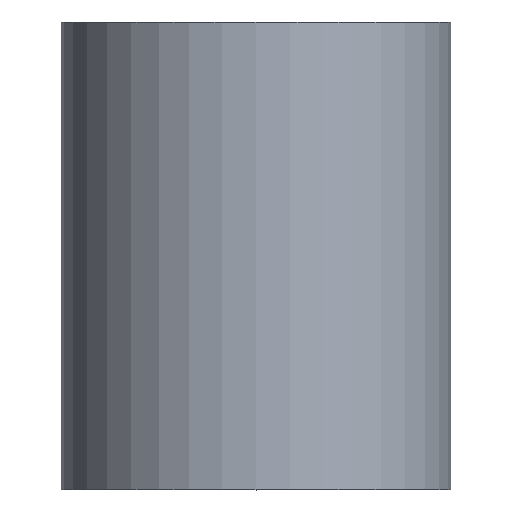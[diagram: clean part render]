
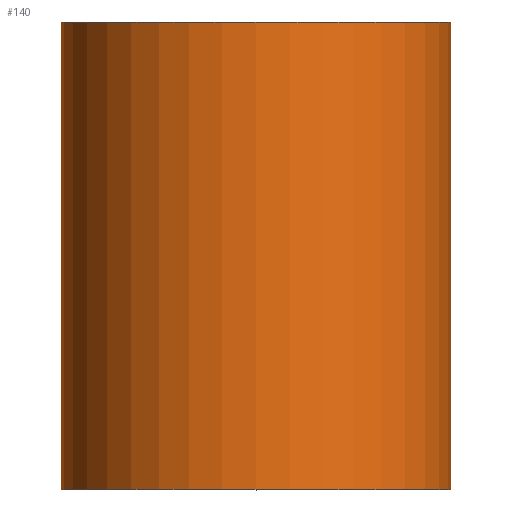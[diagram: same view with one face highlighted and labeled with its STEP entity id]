
A CAD part, top view. The second image highlights one B-rep face of the part: STEP entity #140.
In plain terms, the highlighted cylindrical face has radius 2.5 mm (diameter 5 mm), a partial arc.
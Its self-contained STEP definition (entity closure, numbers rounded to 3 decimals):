
#5 = DIRECTION ( 'NONE',  ( -1., 0., 0. ) ) ;
#12 = VECTOR ( 'NONE', #184, 1000. ) ;
#19 = AXIS2_PLACEMENT_3D ( 'NONE', #117, #91, #5 ) ;
#24 = ORIENTED_EDGE ( 'NONE', *, *, #132, .F. ) ;
#46 = ORIENTED_EDGE ( 'NONE', *, *, #104, .T. ) ;
#56 = EDGE_LOOP ( 'NONE', ( #287, #46, #24, #84 ) ) ;
#73 = FACE_OUTER_BOUND ( 'NONE', #56, .T. ) ;
#75 = CARTESIAN_POINT ( 'NONE',  ( -2.5, 0., 0. ) ) ;
#84 = ORIENTED_EDGE ( 'NONE', *, *, #193, .F. ) ;
#91 = DIRECTION ( 'NONE',  ( 0., 1., 0. ) ) ;
#95 = CIRCLE ( 'NONE', #268, 2.5 ) ;
#104 = EDGE_CURVE ( 'NONE', #243, #213, #134, .T. ) ;
#117 = CARTESIAN_POINT ( 'NONE',  ( 0., 0., 0. ) ) ;
#121 = DIRECTION ( 'NONE',  ( 0., 1., 0. ) ) ;
#130 = LINE ( 'NONE', #299, #12 ) ;
#132 = EDGE_CURVE ( 'NONE', #211, #213, #95, .T. ) ;
#134 = LINE ( 'NONE', #154, #237 ) ;
#140 = ADVANCED_FACE ( 'NONE', ( #73 ), #186, .T. ) ;
#149 = CIRCLE ( 'NONE', #228, 2.5 ) ;
#154 = CARTESIAN_POINT ( 'NONE',  ( 2.5, 0., 0. ) ) ;
#163 = DIRECTION ( 'NONE',  ( 0., 1., 0. ) ) ;
#168 = CARTESIAN_POINT ( 'NONE',  ( -2.5, 6., 0. ) ) ;
#175 = EDGE_CURVE ( 'NONE', #256, #243, #149, .T. ) ;
#181 = DIRECTION ( 'NONE',  ( -1., 0., 0. ) ) ;
#184 = DIRECTION ( 'NONE',  ( 0., 1., 0. ) ) ;
#186 = CYLINDRICAL_SURFACE ( 'NONE', #19, 2.5 ) ;
#189 = CARTESIAN_POINT ( 'NONE',  ( 0., 6., 0. ) ) ;
#193 = EDGE_CURVE ( 'NONE', #256, #211, #130, .T. ) ;
#209 = CARTESIAN_POINT ( 'NONE',  ( 0., 0., 0. ) ) ;
#211 = VERTEX_POINT ( 'NONE', #168 ) ;
#213 = VERTEX_POINT ( 'NONE', #215 ) ;
#215 = CARTESIAN_POINT ( 'NONE',  ( 2.5, 6., 0. ) ) ;
#217 = CARTESIAN_POINT ( 'NONE',  ( 2.5, 0., 0. ) ) ;
#228 = AXIS2_PLACEMENT_3D ( 'NONE', #209, #121, #280 ) ;
#229 = DIRECTION ( 'NONE',  ( 0., 1., 0. ) ) ;
#237 = VECTOR ( 'NONE', #163, 1000. ) ;
#243 = VERTEX_POINT ( 'NONE', #217 ) ;
#256 = VERTEX_POINT ( 'NONE', #75 ) ;
#268 = AXIS2_PLACEMENT_3D ( 'NONE', #189, #229, #181 ) ;
#280 = DIRECTION ( 'NONE',  ( -1., 0., 0. ) ) ;
#287 = ORIENTED_EDGE ( 'NONE', *, *, #175, .T. ) ;
#299 = CARTESIAN_POINT ( 'NONE',  ( -2.5, 0., 0. ) ) ;
